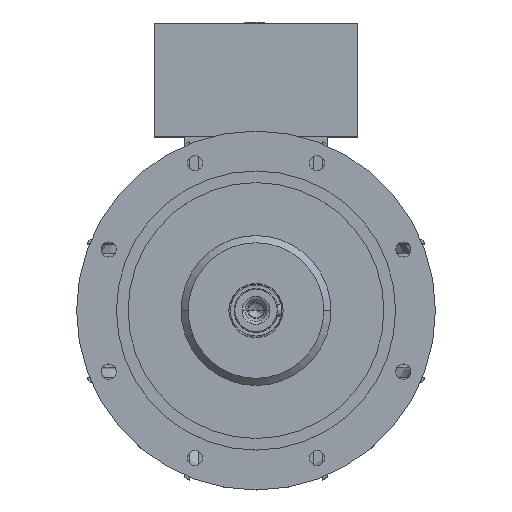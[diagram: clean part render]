
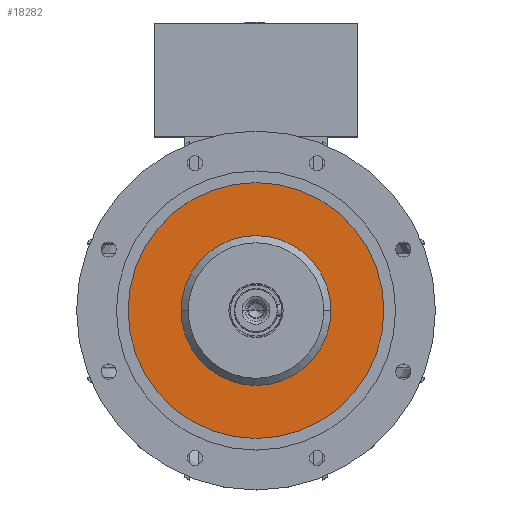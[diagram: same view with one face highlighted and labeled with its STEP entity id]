
A CAD part, top view. The second image highlights one B-rep face of the part: STEP entity #18282.
In plain terms, the highlighted planar face has unit normal (0, 0, 1).
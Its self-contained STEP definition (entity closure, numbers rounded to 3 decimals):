
#237 = DIRECTION ( 'NONE',  ( 0., 0., -1. ) ) ;
#305 = DIRECTION ( 'NONE',  ( 1., 0., 0. ) ) ;
#390 = EDGE_CURVE ( 'NONE', #7754, #8930, #11260, .T. ) ;
#1774 = CARTESIAN_POINT ( 'NONE',  ( 0., 0., 293.5 ) ) ;
#2282 = CARTESIAN_POINT ( 'NONE',  ( 94., 0., 293.5 ) ) ;
#3398 = ORIENTED_EDGE ( 'NONE', *, *, #390, .T. ) ;
#4812 = ORIENTED_EDGE ( 'NONE', *, *, #25245, .T. ) ;
#5368 = DIRECTION ( 'NONE',  ( -1., 0., 0. ) ) ;
#5465 = AXIS2_PLACEMENT_3D ( 'NONE', #10165, #6353, #20072 ) ;
#5987 = CARTESIAN_POINT ( 'NONE',  ( 160.417, 0., 293.5 ) ) ;
#6353 = DIRECTION ( 'NONE',  ( 0., 0., 1. ) ) ;
#6681 = EDGE_CURVE ( 'NONE', #16544, #18769, #7541, .T. ) ;
#6974 = CIRCLE ( 'NONE', #12105, 160.417 ) ;
#7541 = CIRCLE ( 'NONE', #5465, 160.417 ) ;
#7754 = VERTEX_POINT ( 'NONE', #2282 ) ;
#7997 = FACE_OUTER_BOUND ( 'NONE', #23745, .T. ) ;
#8535 = ORIENTED_EDGE ( 'NONE', *, *, #6681, .T. ) ;
#8930 = VERTEX_POINT ( 'NONE', #20884 ) ;
#9414 = DIRECTION ( 'NONE',  ( 0., 0., 1. ) ) ;
#10155 = DIRECTION ( 'NONE',  ( -1., 0., 0. ) ) ;
#10165 = CARTESIAN_POINT ( 'NONE',  ( 0., 0., 293.5 ) ) ;
#11041 = EDGE_CURVE ( 'NONE', #8930, #7754, #20012, .T. ) ;
#11260 = CIRCLE ( 'NONE', #14704, 94. ) ;
#12105 = AXIS2_PLACEMENT_3D ( 'NONE', #17327, #9414, #5368 ) ;
#14704 = AXIS2_PLACEMENT_3D ( 'NONE', #16236, #237, #10155 ) ;
#15060 = ORIENTED_EDGE ( 'NONE', *, *, #11041, .T. ) ;
#16236 = CARTESIAN_POINT ( 'NONE',  ( 0., 0., 293.5 ) ) ;
#16380 = PLANE ( 'NONE',  #19395 ) ;
#16544 = VERTEX_POINT ( 'NONE', #5987 ) ;
#17005 = FACE_BOUND ( 'NONE', #18035, .T. ) ;
#17327 = CARTESIAN_POINT ( 'NONE',  ( 0., 0., 293.5 ) ) ;
#17995 = AXIS2_PLACEMENT_3D ( 'NONE', #1774, #23251, #19457 ) ;
#18035 = EDGE_LOOP ( 'NONE', ( #15060, #3398 ) ) ;
#18282 = ADVANCED_FACE ( 'NONE', ( #7997, #17005 ), #16380, .T. ) ;
#18769 = VERTEX_POINT ( 'NONE', #19737 ) ;
#19395 = AXIS2_PLACEMENT_3D ( 'NONE', #23986, #22355, #305 ) ;
#19457 = DIRECTION ( 'NONE',  ( -1., 0., 0. ) ) ;
#19737 = CARTESIAN_POINT ( 'NONE',  ( -160.417, 0., 293.5 ) ) ;
#20012 = CIRCLE ( 'NONE', #17995, 94. ) ;
#20072 = DIRECTION ( 'NONE',  ( -1., 0., 0. ) ) ;
#20884 = CARTESIAN_POINT ( 'NONE',  ( -94., 0., 293.5 ) ) ;
#22355 = DIRECTION ( 'NONE',  ( 0., 0., 1. ) ) ;
#23251 = DIRECTION ( 'NONE',  ( 0., 0., -1. ) ) ;
#23745 = EDGE_LOOP ( 'NONE', ( #4812, #8535 ) ) ;
#23986 = CARTESIAN_POINT ( 'NONE',  ( 0., 160.417, 293.5 ) ) ;
#25245 = EDGE_CURVE ( 'NONE', #18769, #16544, #6974, .T. ) ;
